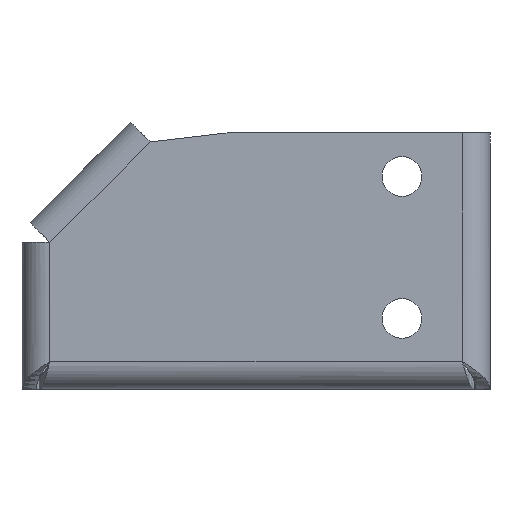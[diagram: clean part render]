
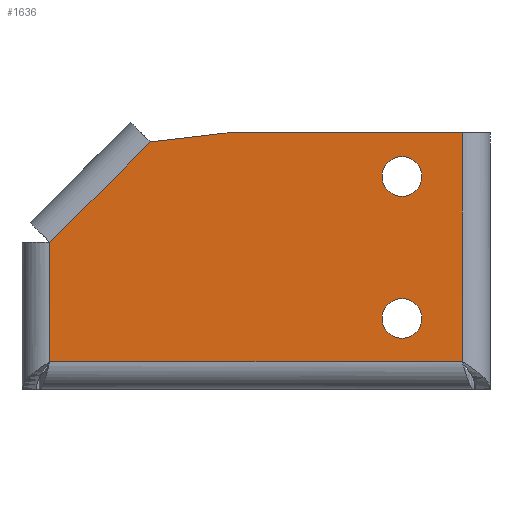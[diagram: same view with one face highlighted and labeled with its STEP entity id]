
A CAD part, top view. The second image highlights one B-rep face of the part: STEP entity #1636.
In plain terms, the highlighted planar face has unit normal (0, 0, 1).
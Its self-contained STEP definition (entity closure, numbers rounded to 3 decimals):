
#6 = DIRECTION ( 'NONE',  ( -1., 0., 0. ) ) ;
#7 = DIRECTION ( 'NONE',  ( 0., 0., -1. ) ) ;
#8 = CARTESIAN_POINT ( 'NONE',  ( -10.6, 12.6, 2.5 ) ) ;
#11 = CARTESIAN_POINT ( 'NONE',  ( -7.1, 12.6, 2.5 ) ) ;
#23 = AXIS2_PLACEMENT_3D ( 'NONE', #8, #7, #6 ) ;
#25 = CIRCLE ( 'NONE', #23, 3.5 ) ;
#26 = CARTESIAN_POINT ( 'NONE',  ( -14.1, 12.6, 2.5 ) ) ;
#81 = CARTESIAN_POINT ( 'NONE',  ( -14.1, 37.6, 2.5 ) ) ;
#1489 = EDGE_CURVE ( 'NONE', #1615, #1500, #2504, .T. ) ;
#1491 = ORIENTED_EDGE ( 'NONE', *, *, #1493, .T. ) ;
#1492 = ORIENTED_EDGE ( 'NONE', *, *, #1502, .T. ) ;
#1493 = EDGE_CURVE ( 'NONE', #1616, #1626, #2500, .T. ) ;
#1500 = VERTEX_POINT ( 'NONE', #2458 ) ;
#1501 = ORIENTED_EDGE ( 'NONE', *, *, #1631, .T. ) ;
#1502 = EDGE_CURVE ( 'NONE', #1627, #1616, #2506, .T. ) ;
#1509 = ORIENTED_EDGE ( 'NONE', *, *, #1515, .T. ) ;
#1512 = ORIENTED_EDGE ( 'NONE', *, *, #1489, .T. ) ;
#1515 = EDGE_CURVE ( 'NONE', #1500, #1635, #2535, .T. ) ;
#1606 = EDGE_CURVE ( 'NONE', #1693, #1697, #2688, .T. ) ;
#1615 = VERTEX_POINT ( 'NONE', #2728 ) ;
#1616 = VERTEX_POINT ( 'NONE', #2727 ) ;
#1622 = EDGE_CURVE ( 'NONE', #1626, #1615, #2715, .T. ) ;
#1626 = VERTEX_POINT ( 'NONE', #2711 ) ;
#1627 = VERTEX_POINT ( 'NONE', #2723 ) ;
#1631 = EDGE_CURVE ( 'NONE', #1635, #1627, #2763, .T. ) ;
#1632 = EDGE_LOOP ( 'NONE', ( #1644, #1643 ) ) ;
#1633 = EDGE_LOOP ( 'NONE', ( #1640, #1638 ) ) ;
#1635 = VERTEX_POINT ( 'NONE', #2710 ) ;
#1636 = ADVANCED_FACE ( 'NONE', ( #2755, #2756, #2764 ), #2703, .T. ) ;
#1637 = EDGE_LOOP ( 'NONE', ( #1501, #1492, #1491, #1642, #1512, #1509 ) ) ;
#1638 = ORIENTED_EDGE ( 'NONE', *, *, #1659, .T. ) ;
#1639 = EDGE_CURVE ( 'NONE', #1720, #1660, #2754, .T. ) ;
#1640 = ORIENTED_EDGE ( 'NONE', *, *, #1639, .T. ) ;
#1642 = ORIENTED_EDGE ( 'NONE', *, *, #1622, .T. ) ;
#1643 = ORIENTED_EDGE ( 'NONE', *, *, #1696, .T. ) ;
#1644 = ORIENTED_EDGE ( 'NONE', *, *, #1606, .T. ) ;
#1659 = EDGE_CURVE ( 'NONE', #1660, #1720, #2778, .T. ) ;
#1660 = VERTEX_POINT ( 'NONE', #2793 ) ;
#1693 = VERTEX_POINT ( 'NONE', #26 ) ;
#1696 = EDGE_CURVE ( 'NONE', #1697, #1693, #25, .T. ) ;
#1697 = VERTEX_POINT ( 'NONE', #11 ) ;
#1720 = VERTEX_POINT ( 'NONE', #81 ) ;
#2458 = CARTESIAN_POINT ( 'NONE',  ( -72.6, 26., 2.5 ) ) ;
#2479 = DIRECTION ( 'NONE',  ( 0., -1., 0. ) ) ;
#2480 = VECTOR ( 'NONE', #2479, 1000. ) ;
#2481 = CARTESIAN_POINT ( 'NONE',  ( -72.6, 26., 2.5 ) ) ;
#2491 = DIRECTION ( 'NONE',  ( 0., 1., 0. ) ) ;
#2492 = VECTOR ( 'NONE', #2491, 1000. ) ;
#2493 = CARTESIAN_POINT ( 'NONE',  ( 0., 0., 2.5 ) ) ;
#2497 = DIRECTION ( 'NONE',  ( -1., 0., 0. ) ) ;
#2498 = VECTOR ( 'NONE', #2497, 1000. ) ;
#2499 = CARTESIAN_POINT ( 'NONE',  ( 0., 45.3, 2.5 ) ) ;
#2500 = LINE ( 'NONE', #2499, #2498 ) ;
#2501 = DIRECTION ( 'NONE',  ( -0.707, -0.707, 0. ) ) ;
#2502 = VECTOR ( 'NONE', #2501, 1000. ) ;
#2503 = CARTESIAN_POINT ( 'NONE',  ( -54.922, 43.678, 2.5 ) ) ;
#2504 = LINE ( 'NONE', #2503, #2502 ) ;
#2506 = LINE ( 'NONE', #2493, #2492 ) ;
#2535 = LINE ( 'NONE', #2481, #2480 ) ;
#2682 = DIRECTION ( 'NONE',  ( -1., 0., 0. ) ) ;
#2683 = DIRECTION ( 'NONE',  ( 0., 0., -1. ) ) ;
#2684 = CARTESIAN_POINT ( 'NONE',  ( -10.6, 12.6, 2.5 ) ) ;
#2688 = CIRCLE ( 'NONE', #2689, 3.5 ) ;
#2689 = AXIS2_PLACEMENT_3D ( 'NONE', #2684, #2683, #2682 ) ;
#2703 = PLANE ( 'NONE',  #2750 ) ;
#2710 = CARTESIAN_POINT ( 'NONE',  ( -72.6, 5., 2.5 ) ) ;
#2711 = CARTESIAN_POINT ( 'NONE',  ( -41.049, 45.3, 2.5 ) ) ;
#2712 = DIRECTION ( 'NONE',  ( -0.993, -0.116, 0. ) ) ;
#2713 = VECTOR ( 'NONE', #2712, 1000. ) ;
#2714 = CARTESIAN_POINT ( 'NONE',  ( 0., 50.1, 2.5 ) ) ;
#2715 = LINE ( 'NONE', #2714, #2713 ) ;
#2723 = CARTESIAN_POINT ( 'NONE',  ( 0., 5., 2.5 ) ) ;
#2727 = CARTESIAN_POINT ( 'NONE',  ( 0., 45.3, 2.5 ) ) ;
#2728 = CARTESIAN_POINT ( 'NONE',  ( -54.922, 43.678, 2.5 ) ) ;
#2743 = DIRECTION ( 'NONE',  ( -1., 0., 0. ) ) ;
#2744 = DIRECTION ( 'NONE',  ( 0., 0., -1. ) ) ;
#2745 = CARTESIAN_POINT ( 'NONE',  ( -10.6, 37.6, 2.5 ) ) ;
#2747 = DIRECTION ( 'NONE',  ( 1., 0., 0. ) ) ;
#2748 = DIRECTION ( 'NONE',  ( 0., 0., 1. ) ) ;
#2749 = CARTESIAN_POINT ( 'NONE',  ( 0., 0., 2.5 ) ) ;
#2750 = AXIS2_PLACEMENT_3D ( 'NONE', #2749, #2748, #2747 ) ;
#2754 = CIRCLE ( 'NONE', #2766, 3.5 ) ;
#2755 = FACE_BOUND ( 'NONE', #1632, .T. ) ;
#2756 = FACE_BOUND ( 'NONE', #1633, .T. ) ;
#2757 = DIRECTION ( 'NONE',  ( 1., 0., 0. ) ) ;
#2758 = VECTOR ( 'NONE', #2757, 1000. ) ;
#2759 = CARTESIAN_POINT ( 'NONE',  ( -72.6, 5., 2.5 ) ) ;
#2763 = LINE ( 'NONE', #2759, #2758 ) ;
#2764 = FACE_OUTER_BOUND ( 'NONE', #1637, .T. ) ;
#2766 = AXIS2_PLACEMENT_3D ( 'NONE', #2745, #2744, #2743 ) ;
#2775 = DIRECTION ( 'NONE',  ( -1., 0., 0. ) ) ;
#2776 = DIRECTION ( 'NONE',  ( 0., 0., -1. ) ) ;
#2777 = CARTESIAN_POINT ( 'NONE',  ( -10.6, 37.6, 2.5 ) ) ;
#2778 = CIRCLE ( 'NONE', #2787, 3.5 ) ;
#2787 = AXIS2_PLACEMENT_3D ( 'NONE', #2777, #2776, #2775 ) ;
#2793 = CARTESIAN_POINT ( 'NONE',  ( -7.1, 37.6, 2.5 ) ) ;
